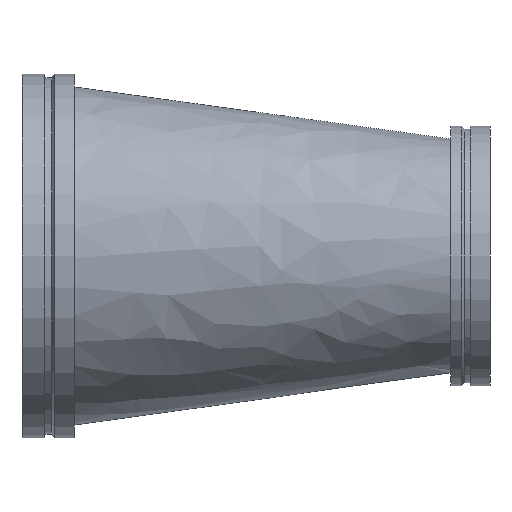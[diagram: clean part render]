
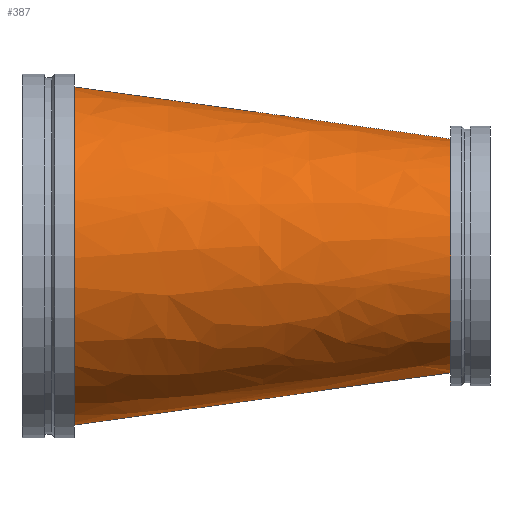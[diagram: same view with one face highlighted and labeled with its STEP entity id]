
A CAD part, front view. The second image highlights one B-rep face of the part: STEP entity #387.
In plain terms, the highlighted free-form (B-spline) face has degree [1, 2] with [2, 9] control points.
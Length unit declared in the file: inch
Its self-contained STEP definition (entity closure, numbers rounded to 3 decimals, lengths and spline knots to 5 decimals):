
#46=B_SPLINE_CURVE_WITH_KNOTS('',1,(#747,#748),.UNSPECIFIED.,.F.,.F.,(2,
2),(-2.27415,-0.00248),.UNSPECIFIED.);
#48=(
BOUNDED_SURFACE()
B_SPLINE_SURFACE(1,2,((#729,#730,#731,#732,#733,#734,#735,#736,#737),(#738,
#739,#740,#741,#742,#743,#744,#745,#746)),.UNSPECIFIED.,.F.,.T.,.F.)
B_SPLINE_SURFACE_WITH_KNOTS((2,2),(3,2,2,2,3),(-0.1354,2.36617),
(-3.14159,-1.5708,0.,1.5708,3.14159),
 .UNSPECIFIED.)
GEOMETRIC_REPRESENTATION_ITEM()
RATIONAL_B_SPLINE_SURFACE(((1.,0.707,1.,0.707,1.,
0.707,1.,0.707,1.),(1.,0.707,1.,0.707,
1.,0.707,1.,0.707,1.)))
REPRESENTATION_ITEM('')
SURFACE()
);
#98=FACE_OUTER_BOUND('',#120,.T.);
#120=EDGE_LOOP('',(#321,#322,#323,#324,#325,#326));
#129=CIRCLE('',#415,9.);
#130=CIRCLE('',#416,9.);
#153=CIRCLE('',#450,13.);
#154=CIRCLE('',#451,13.);
#166=VERTEX_POINT('',#628);
#167=VERTEX_POINT('',#629);
#190=VERTEX_POINT('',#695);
#191=VERTEX_POINT('',#696);
#203=EDGE_CURVE('',#166,#167,#129,.T.);
#204=EDGE_CURVE('',#167,#166,#130,.T.);
#235=EDGE_CURVE('',#190,#191,#153,.T.);
#236=EDGE_CURVE('',#191,#190,#154,.T.);
#243=EDGE_CURVE('',#167,#191,#46,.T.);
#321=ORIENTED_EDGE('',*,*,#203,.T.);
#322=ORIENTED_EDGE('',*,*,#243,.T.);
#323=ORIENTED_EDGE('',*,*,#236,.T.);
#324=ORIENTED_EDGE('',*,*,#235,.T.);
#325=ORIENTED_EDGE('',*,*,#243,.F.);
#326=ORIENTED_EDGE('',*,*,#204,.T.);
#387=ADVANCED_FACE('',(#98),#48,.F.);
#415=AXIS2_PLACEMENT_3D('',#630,#486,#487);
#416=AXIS2_PLACEMENT_3D('',#631,#488,#489);
#450=AXIS2_PLACEMENT_3D('',#697,#564,#565);
#451=AXIS2_PLACEMENT_3D('',#698,#566,#567);
#486=DIRECTION('center_axis',(-1.,0.,0.));
#487=DIRECTION('ref_axis',(0.,-1.,0.));
#488=DIRECTION('center_axis',(-1.,0.,0.));
#489=DIRECTION('ref_axis',(0.,-1.,0.));
#564=DIRECTION('center_axis',(1.,0.,0.));
#565=DIRECTION('ref_axis',(0.,1.,0.));
#566=DIRECTION('center_axis',(1.,0.,0.));
#567=DIRECTION('ref_axis',(0.,1.,0.));
#628=CARTESIAN_POINT('',(33.,-13.,0.));
#629=CARTESIAN_POINT('',(33.,-4.165,8.99849));
#630=CARTESIAN_POINT('Origin',(33.,-4.,0.));
#631=CARTESIAN_POINT('Origin',(33.,-4.,0.));
#695=CARTESIAN_POINT('',(4.,13.,0.));
#696=CARTESIAN_POINT('',(4.,-0.23834,12.99781));
#697=CARTESIAN_POINT('Origin',(4.,0.,0.));
#698=CARTESIAN_POINT('Origin',(4.,0.,0.));
#729=CARTESIAN_POINT('Ctrl Pts',(2.23977,0.,
13.24056));
#730=CARTESIAN_POINT('Ctrl Pts',(0.47954,-13.,13.24056));
#731=CARTESIAN_POINT('Ctrl Pts',(0.47954,-13.,0.));
#732=CARTESIAN_POINT('Ctrl Pts',(0.47954,-13.,-13.24056));
#733=CARTESIAN_POINT('Ctrl Pts',(2.23977,0.,-13.24056));
#734=CARTESIAN_POINT('Ctrl Pts',(4.,13.,-13.24056));
#735=CARTESIAN_POINT('Ctrl Pts',(4.,13.,0.));
#736=CARTESIAN_POINT('Ctrl Pts',(4.,13.,13.24056));
#737=CARTESIAN_POINT('Ctrl Pts',(2.23977,0.,
13.24056));
#738=CARTESIAN_POINT('Ctrl Pts',(34.17474,-4.32407,8.83648));
#739=CARTESIAN_POINT('Ctrl Pts',(33.,-13.,8.83648));
#740=CARTESIAN_POINT('Ctrl Pts',(33.,-13.,0.));
#741=CARTESIAN_POINT('Ctrl Pts',(33.,-13.,-8.83648));
#742=CARTESIAN_POINT('Ctrl Pts',(34.17474,-4.32407,-8.83648));
#743=CARTESIAN_POINT('Ctrl Pts',(35.34948,4.35187,-8.83648));
#744=CARTESIAN_POINT('Ctrl Pts',(35.34948,4.35187,0.));
#745=CARTESIAN_POINT('Ctrl Pts',(35.34948,4.35187,8.83648));
#746=CARTESIAN_POINT('Ctrl Pts',(34.17474,-4.32407,8.83648));
#747=CARTESIAN_POINT('Ctrl Pts',(33.,-4.165,8.99849));
#748=CARTESIAN_POINT('Ctrl Pts',(4.,-0.23834,12.99781));
